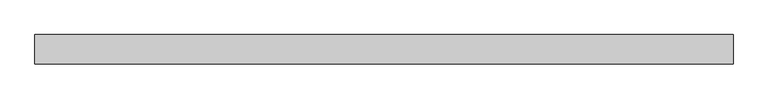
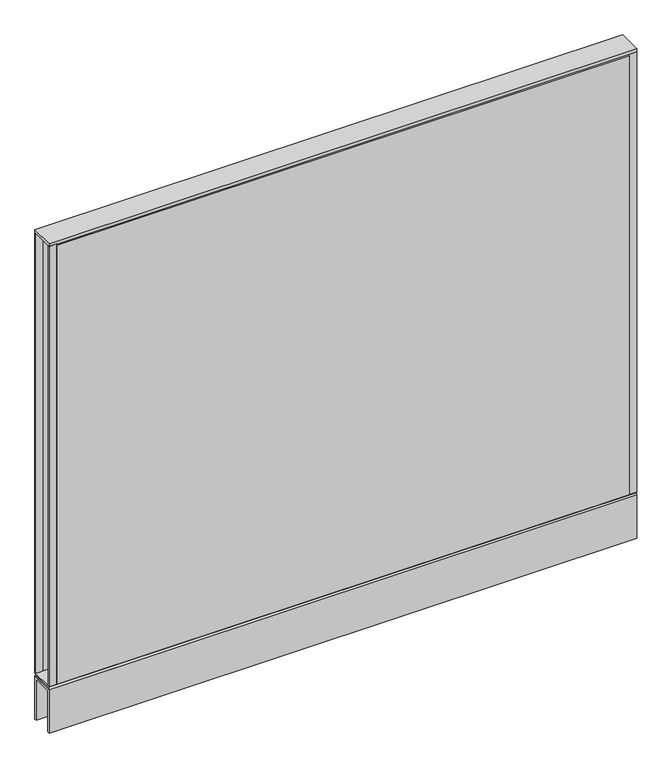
"""IFC4 building model written with IfcOpenShell, lengths in millimetres: furniture geometry, Steelcase - Kick Solutions - Panel - Monolithic - Tackable Acoustical : 42H x 48W."""

from ifc_helpers import new_model, si_unit, frame, origin, place, context, project, spatial, polyline, outline, extrude, source, transform, mapped, element, save


def furniture_3ec9a25a(model_context):
    return source(origin(), model_context, "Body", "SweptSolid", [
        extrude(outline(polyline([(0.0, 101.7169049), (-3.1750015, 101.7169049), (-3.1750015, 1066.9169018), (0.0, 1063.8357466), (0.0, 101.7169049)])), frame((15.8749996, 0.0, 0.0), z_axis=(1.0, 0.0, 0.0), x_axis=(0.0, 1.0, 0.0)), (0.0, 0.0, 1.0), 1187.4500008),
        extrude(outline(polyline([(-50.8000015, 101.7169049), (-50.8000015, 1063.8357466), (-47.625, 1066.9169018), (-47.625, 101.7169049), (-50.8000015, 101.7169049)])), frame((15.8749996, 0.0, 0.0), z_axis=(1.0, 0.0, 0.0), x_axis=(0.0, 1.0, 0.0)), (0.0, 0.0, 1.0), 1187.4500008),
        extrude(outline(polyline([(1219.2, -3.1750015), (1203.3250004, -3.1750015), (1203.3250004, 0.0), (1219.2, 0.0), (1219.2, -3.1750015)])), frame((0.0, 0.0, 101.7169049), z_axis=(0.0, 0.0, 1.0), x_axis=(1.0, 0.0, 0.0)), (0.0, 0.0, 1.0), 965.199997),
        extrude(outline(polyline([(15.8749996, -50.8000015), (0.0, -50.8000015), (0.0, -47.625), (15.8749996, -47.625), (15.8749996, -50.8000015)])), frame((0.0, 0.0, 101.7169049), z_axis=(0.0, 0.0, 1.0), x_axis=(1.0, 0.0, 0.0)), (0.0, 0.0, 1.0), 965.199997),
        extrude(outline(polyline([(-50.7995075, 101.7169049), (-0.000494, 101.7169049), (-3.0583512, 98.5421458), (-47.7416503, 98.5421458), (-50.7995075, 101.7169049)])), frame((0.0, 0.0, 0.0), z_axis=(1.0, 0.0, 0.0), x_axis=(0.0, 1.0, 0.0)), (0.0, 0.0, 1.0), 1219.2),
        extrude(outline(polyline([(1219.2, 0.0), (1219.2, -50.8000015), (0.0, -50.8000015), (0.0, 0.0), (1219.2, 0.0)])), frame((0.0, 0.0, 1066.9169018), z_axis=(0.0, 0.0, 1.0), x_axis=(1.0, 0.0, 0.0)), (0.0, 0.0, 1.0), 6.35),
        extrude(outline(polyline([(15.8749996, -3.1750015), (0.0, -3.1750015), (0.0, 0.0), (15.8749996, 0.0), (15.8749996, -3.1750015)])), frame((0.0, 0.0, 101.7169049), z_axis=(0.0, 0.0, 1.0), x_axis=(1.0, 0.0, 0.0)), (0.0, 0.0, 1.0), 965.199997),
        extrude(outline(polyline([(1219.2, -50.8000015), (1203.3250004, -50.8000015), (1203.3250004, -47.625), (1219.2, -47.625), (1219.2, -50.8000015)])), frame((0.0, 0.0, 101.7169049), z_axis=(0.0, 0.0, 1.0), x_axis=(1.0, 0.0, 0.0)), (0.0, 0.0, 1.0), 965.199997),
        extrude(outline(polyline([(-50.8000015, 95.3668927), (-47.6247484, 98.5421458), (-3.1752531, 98.5421458), (0.0, 95.3668927), (-50.8000015, 95.3668927)])), frame((0.0, 0.0, 0.0), z_axis=(1.0, 0.0, 0.0), x_axis=(0.0, 1.0, 0.0)), (0.0, 0.0, 1.0), 1219.2),
        extrude(outline(polyline([(0.0, 0.0), (-5.08, 0.0), (-5.08, 90.2869018), (-45.7200015, 90.2869018), (-45.7200015, 0.0), (-50.8000015, 0.0), (-50.8000015, 95.3669018), (0.0, 95.3669018), (0.0, 0.0)])), frame((0.0, 0.0, 0.0), z_axis=(1.0, 0.0, 0.0), x_axis=(0.0, 1.0, 0.0)), (0.0, 0.0, 1.0), 1219.2),
    ])


if __name__ == "__main__":
    model = new_model("IFC4")
    model_context = context("Model", 3, world=origin())
    ifc_project = project(units=[si_unit("LENGTHUNIT", "METRE", prefix="MILLI")], contexts=[model_context])
    site = spatial("IfcSite", under=ifc_project)
    building = spatial("IfcBuilding", under=site)
    placement = place(None, origin())
    furniture_shape = furniture_3ec9a25a(model_context)
    element("IfcFurniture", 1, ObjectType="Steelcase - Kick Solutions - Panel - Monolithic - Tackable Acoustical : 42H x 48W", at=placement, inside=building, context=model_context, shape_type="MappedRepresentation", body=[
        mapped(furniture_shape, transform((0.0, 0.0, 0.0), x_axis=(1.0, 0.0, 0.0), y_axis=(0.0, 1.0, 0.0), z_axis=(0.0, 0.0, 1.0))),
    ])
    save(model, "model.ifc")
